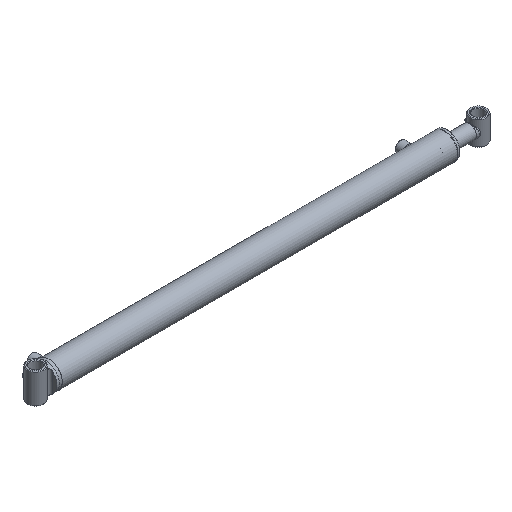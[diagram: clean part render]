
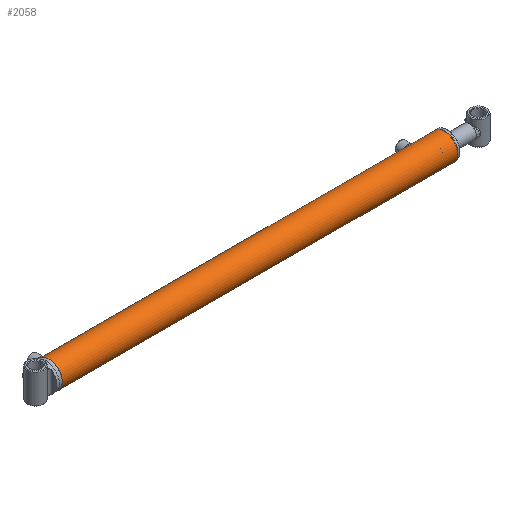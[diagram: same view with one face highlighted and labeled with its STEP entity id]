
A CAD part, isometric view. The second image highlights one B-rep face of the part: STEP entity #2058.
In plain terms, the highlighted cylindrical face has radius 30.163 mm (diameter 60.325 mm), a full revolution.
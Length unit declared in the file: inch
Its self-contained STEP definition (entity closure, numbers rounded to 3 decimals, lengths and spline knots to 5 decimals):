
#377=FACE_BOUND('',#700,.T.);
#378=FACE_BOUND('',#701,.T.);
#379=FACE_BOUND('',#702,.T.);
#500=FACE_OUTER_BOUND('',#699,.T.);
#699=EDGE_LOOP('',(#1636));
#700=EDGE_LOOP('',(#1637));
#701=EDGE_LOOP('',(#1638));
#702=EDGE_LOOP('',(#1639));
#908=CIRCLE('',#2250,1.1875);
#912=CIRCLE('',#2258,1.1875);
#1027=B_SPLINE_CURVE_WITH_KNOTS('',3,(#4783,#4784,#4785,#4786,#4787,#4788,
#4789,#4790,#4791,#4792,#4793,#4794,#4795,#4796,#4797,#4798,#4799,#4800,
#4801,#4802,#4803,#4804,#4805,#4806,#4807,#4808,#4809,#4810,#4811,#4812,
#4813,#4814,#4815,#4816),.UNSPECIFIED.,.T.,.F.,(4,2,2,2,2,2,2,2,2,2,2,2,
2,2,2,2,4),(0.,0.18872,0.37744,0.56616,0.75487,
0.94359,1.1323,1.32102,1.50975,1.69847,
1.88719,2.0759,2.26462,2.45333,2.64205,
2.83077,3.01949),.UNSPECIFIED.);
#1029=B_SPLINE_CURVE_WITH_KNOTS('',3,(#4976,#4977,#4978,#4979,#4980,#4981,
#4982,#4983,#4984,#4985,#4986,#4987,#4988,#4989,#4990,#4991,#4992,#4993,
#4994,#4995,#4996,#4997,#4998,#4999,#5000,#5001,#5002,#5003,#5004,#5005,
#5006,#5007,#5008,#5009),.UNSPECIFIED.,.T.,.F.,(4,2,2,2,2,2,2,2,2,2,2,2,
2,2,2,2,4),(0.,0.18872,0.37744,0.56616,0.75487,
0.94359,1.1323,1.32102,1.50975,1.69847,
1.88719,2.0759,2.26462,2.45333,2.64205,
2.83077,3.01949),.UNSPECIFIED.);
#1098=VERTEX_POINT('',#4782);
#1100=VERTEX_POINT('',#4975);
#1104=VERTEX_POINT('',#5019);
#1108=VERTEX_POINT('',#5031);
#1303=EDGE_CURVE('',#1098,#1098,#1027,.T.);
#1306=EDGE_CURVE('',#1100,#1100,#1029,.T.);
#1310=EDGE_CURVE('',#1104,#1104,#908,.T.);
#1314=EDGE_CURVE('',#1108,#1108,#912,.T.);
#1636=ORIENTED_EDGE('',*,*,#1314,.T.);
#1637=ORIENTED_EDGE('',*,*,#1303,.T.);
#1638=ORIENTED_EDGE('',*,*,#1306,.T.);
#1639=ORIENTED_EDGE('',*,*,#1310,.F.);
#1980=CYLINDRICAL_SURFACE('',#2260,1.1875);
#2058=ADVANCED_FACE('',(#500,#377,#378,#379),#1980,.T.);
#2250=AXIS2_PLACEMENT_3D('',#5020,#2627,#2628);
#2258=AXIS2_PLACEMENT_3D('',#5032,#2643,#2644);
#2260=AXIS2_PLACEMENT_3D('',#5034,#2647,#2648);
#2627=DIRECTION('center_axis',(1.,0.,0.));
#2628=DIRECTION('ref_axis',(0.,-1.,0.));
#2643=DIRECTION('center_axis',(1.,0.,0.));
#2644=DIRECTION('ref_axis',(0.,-1.,0.));
#2647=DIRECTION('center_axis',(1.,0.,0.));
#2648=DIRECTION('ref_axis',(0.,-1.,0.));
#4782=CARTESIAN_POINT('',(15.94094,1.17107,-0.19685));
#4783=CARTESIAN_POINT('Ctrl Pts',(15.94094,1.17107,-0.19685));
#4784=CARTESIAN_POINT('Ctrl Pts',(15.96571,1.17107,-0.19685));
#4785=CARTESIAN_POINT('Ctrl Pts',(15.9921,1.17194,-0.19189));
#4786=CARTESIAN_POINT('Ctrl Pts',(16.04058,1.17505,-0.17179));
#4787=CARTESIAN_POINT('Ctrl Pts',(16.06269,1.17725,-0.15665));
#4788=CARTESIAN_POINT('Ctrl Pts',(16.09759,1.18137,-0.12174));
#4789=CARTESIAN_POINT('Ctrl Pts',(16.11273,1.18356,-0.09964));
#4790=CARTESIAN_POINT('Ctrl Pts',(16.13284,1.18665,-0.05115));
#4791=CARTESIAN_POINT('Ctrl Pts',(16.1378,1.1875,-0.02477));
#4792=CARTESIAN_POINT('Ctrl Pts',(16.1378,1.1875,0.02477));
#4793=CARTESIAN_POINT('Ctrl Pts',(16.13284,1.18665,0.05115));
#4794=CARTESIAN_POINT('Ctrl Pts',(16.11273,1.18356,0.09964));
#4795=CARTESIAN_POINT('Ctrl Pts',(16.09759,1.18137,0.12174));
#4796=CARTESIAN_POINT('Ctrl Pts',(16.06269,1.17725,0.15665));
#4797=CARTESIAN_POINT('Ctrl Pts',(16.04058,1.17505,0.17179));
#4798=CARTESIAN_POINT('Ctrl Pts',(15.9921,1.17194,0.19189));
#4799=CARTESIAN_POINT('Ctrl Pts',(15.96571,1.17107,0.19685));
#4800=CARTESIAN_POINT('Ctrl Pts',(15.91618,1.17107,0.19685));
#4801=CARTESIAN_POINT('Ctrl Pts',(15.88979,1.17194,0.19189));
#4802=CARTESIAN_POINT('Ctrl Pts',(15.84131,1.17505,0.17179));
#4803=CARTESIAN_POINT('Ctrl Pts',(15.8192,1.17725,0.15665));
#4804=CARTESIAN_POINT('Ctrl Pts',(15.7843,1.18137,0.12174));
#4805=CARTESIAN_POINT('Ctrl Pts',(15.76916,1.18356,0.09964));
#4806=CARTESIAN_POINT('Ctrl Pts',(15.74905,1.18665,0.05115));
#4807=CARTESIAN_POINT('Ctrl Pts',(15.74409,1.1875,0.02477));
#4808=CARTESIAN_POINT('Ctrl Pts',(15.74409,1.1875,-0.02477));
#4809=CARTESIAN_POINT('Ctrl Pts',(15.74905,1.18665,-0.05115));
#4810=CARTESIAN_POINT('Ctrl Pts',(15.76916,1.18356,-0.09964));
#4811=CARTESIAN_POINT('Ctrl Pts',(15.7843,1.18137,-0.12174));
#4812=CARTESIAN_POINT('Ctrl Pts',(15.8192,1.17725,-0.15665));
#4813=CARTESIAN_POINT('Ctrl Pts',(15.84131,1.17505,-0.17179));
#4814=CARTESIAN_POINT('Ctrl Pts',(15.88979,1.17194,-0.19189));
#4815=CARTESIAN_POINT('Ctrl Pts',(15.91618,1.17107,-0.19685));
#4816=CARTESIAN_POINT('Ctrl Pts',(15.94094,1.17107,-0.19685));
#4975=CARTESIAN_POINT('',(-17.35827,1.17107,-0.19685));
#4976=CARTESIAN_POINT('Ctrl Pts',(-17.35827,1.17107,-0.19685));
#4977=CARTESIAN_POINT('Ctrl Pts',(-17.3335,1.17107,-0.19685));
#4978=CARTESIAN_POINT('Ctrl Pts',(-17.30712,1.17194,-0.19189));
#4979=CARTESIAN_POINT('Ctrl Pts',(-17.25863,1.17505,-0.17179));
#4980=CARTESIAN_POINT('Ctrl Pts',(-17.23653,1.17725,-0.15665));
#4981=CARTESIAN_POINT('Ctrl Pts',(-17.20162,1.18137,-0.12174));
#4982=CARTESIAN_POINT('Ctrl Pts',(-17.18648,1.18356,-0.09964));
#4983=CARTESIAN_POINT('Ctrl Pts',(-17.16638,1.18665,-0.05115));
#4984=CARTESIAN_POINT('Ctrl Pts',(-17.16142,1.1875,-0.02477));
#4985=CARTESIAN_POINT('Ctrl Pts',(-17.16142,1.1875,0.02477));
#4986=CARTESIAN_POINT('Ctrl Pts',(-17.16638,1.18665,0.05115));
#4987=CARTESIAN_POINT('Ctrl Pts',(-17.18648,1.18356,0.09964));
#4988=CARTESIAN_POINT('Ctrl Pts',(-17.20162,1.18137,0.12174));
#4989=CARTESIAN_POINT('Ctrl Pts',(-17.23653,1.17725,0.15665));
#4990=CARTESIAN_POINT('Ctrl Pts',(-17.25863,1.17505,0.17179));
#4991=CARTESIAN_POINT('Ctrl Pts',(-17.30712,1.17194,0.19189));
#4992=CARTESIAN_POINT('Ctrl Pts',(-17.3335,1.17107,0.19685));
#4993=CARTESIAN_POINT('Ctrl Pts',(-17.38303,1.17107,0.19685));
#4994=CARTESIAN_POINT('Ctrl Pts',(-17.40942,1.17194,0.19189));
#4995=CARTESIAN_POINT('Ctrl Pts',(-17.45791,1.17505,0.17179));
#4996=CARTESIAN_POINT('Ctrl Pts',(-17.48001,1.17725,0.15665));
#4997=CARTESIAN_POINT('Ctrl Pts',(-17.51491,1.18137,0.12174));
#4998=CARTESIAN_POINT('Ctrl Pts',(-17.53006,1.18356,0.09964));
#4999=CARTESIAN_POINT('Ctrl Pts',(-17.55016,1.18665,0.05115));
#5000=CARTESIAN_POINT('Ctrl Pts',(-17.55512,1.1875,0.02477));
#5001=CARTESIAN_POINT('Ctrl Pts',(-17.55512,1.1875,-0.02477));
#5002=CARTESIAN_POINT('Ctrl Pts',(-17.55016,1.18665,-0.05115));
#5003=CARTESIAN_POINT('Ctrl Pts',(-17.53006,1.18356,-0.09964));
#5004=CARTESIAN_POINT('Ctrl Pts',(-17.51491,1.18137,-0.12174));
#5005=CARTESIAN_POINT('Ctrl Pts',(-17.48001,1.17725,-0.15665));
#5006=CARTESIAN_POINT('Ctrl Pts',(-17.45791,1.17505,-0.17179));
#5007=CARTESIAN_POINT('Ctrl Pts',(-17.40942,1.17194,-0.19189));
#5008=CARTESIAN_POINT('Ctrl Pts',(-17.38303,1.17107,-0.19685));
#5009=CARTESIAN_POINT('Ctrl Pts',(-17.35827,1.17107,-0.19685));
#5019=CARTESIAN_POINT('',(17.94882,1.1875,0.));
#5020=CARTESIAN_POINT('Origin',(17.94882,0.,0.));
#5031=CARTESIAN_POINT('',(-17.78494,1.1875,0.));
#5032=CARTESIAN_POINT('Origin',(-17.78494,0.,0.));
#5034=CARTESIAN_POINT('Origin',(0.,0.,0.));
